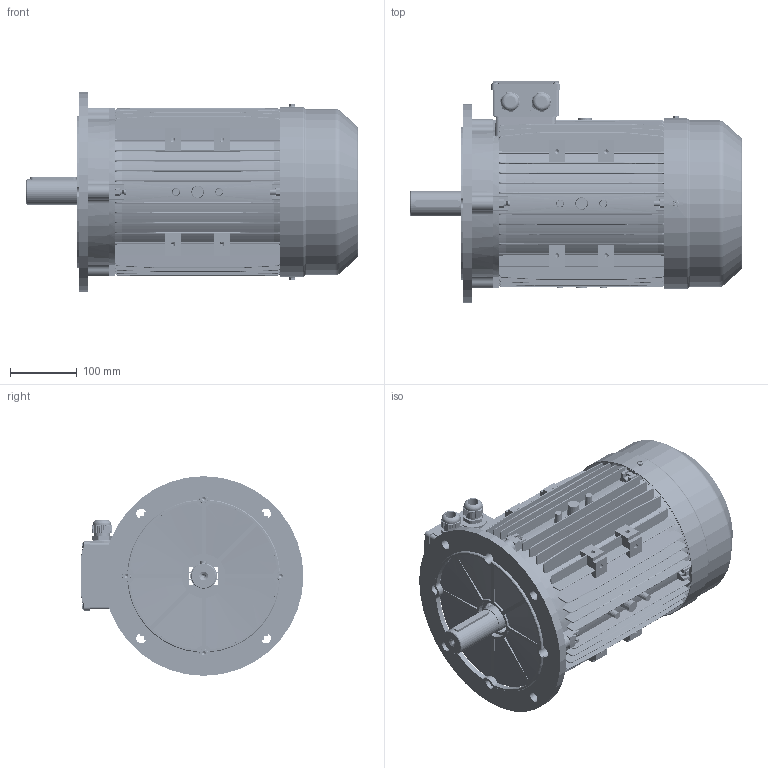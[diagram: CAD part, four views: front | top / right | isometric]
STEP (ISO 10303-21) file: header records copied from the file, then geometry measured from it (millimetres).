
FILE_DESCRIPTION (( 'STEP AP203' ), '1' );
FILE_NAME ('MSL132L assembly B5.STEP', '2017-11-26T10:09:57', ( 'user' ), ( 'china' ), 'SwSTEP 2.0', 'SolidWorks 2016', '' );
FILE_SCHEMA (( 'CONFIG_CONTROL_DESIGN' ));
Length unit declared in the file: millimetre
Products named in the file (16): M132傷裔B3_NonDrive; MSL132L assembly B5; MS132諉盄碟釱(苤)_2Holes; M132瑞欶_117; M112-132諉盄碟(苤); GB-T 29.2-1988 M5鞠褒坋趼湍菜_10; GB-T 70.1-2000 M8_40; MS132諉盄碟裔(苤); GB-T 41-2000 M8; M25 cable gland; GB-T 5780-2000 M8_040; GB-T 29.2-1988 M4鞠褒坋趼湍菜_05; M132-Shaft drive end_DNF; MS132 綴裔瑞欶郪磁; M132傷裔B5; M132儂褲_L
Assembly tree (34 placements, depth 3):
  MSL132L assembly B5
    M132儂褲_L
    M132-Shaft drive end_DNF
    MS132 綴裔瑞欶郪磁
      M132傷裔B3_NonDrive
      M132瑞欶_117
      GB-T 29.2-1988 M5鞠褒坋趼湍菜_10  x3
    GB-T 41-2000 M8  x8
    GB-T 70.1-2000 M8_40  x4
    M132傷裔B5
    M112-132諉盄碟(苤)
      MS132諉盄碟釱(苤)_2Holes
      MS132諉盄碟裔(苤)
      GB-T 29.2-1988 M4鞠褒坋趼湍菜_05  x4
      M25 cable gland  x2
    GB-T 5780-2000 M8_040  x4
Bounding box: 499 x 335 x 300 mm (x, y, z)
Volume: 2966344.3 mm3; surface area: 1537217.2 mm2
Topology: 34 solids, 34 shells, 5469 faces, 14235 edges, 8857 vertices
Faces by surface type: plane 2273, cylinder 1376, cone 1108, bspline 596, torus 112, sphere 4
Entity records: 156558 total; most frequent: CARTESIAN_POINT 62833, ORIENTED_EDGE 20376, DIRECTION 17155, EDGE_CURVE 10188, VERTEX_POINT 6457, LINE 5731, VECTOR 5731, AXIS2_PLACEMENT_3D 5712
